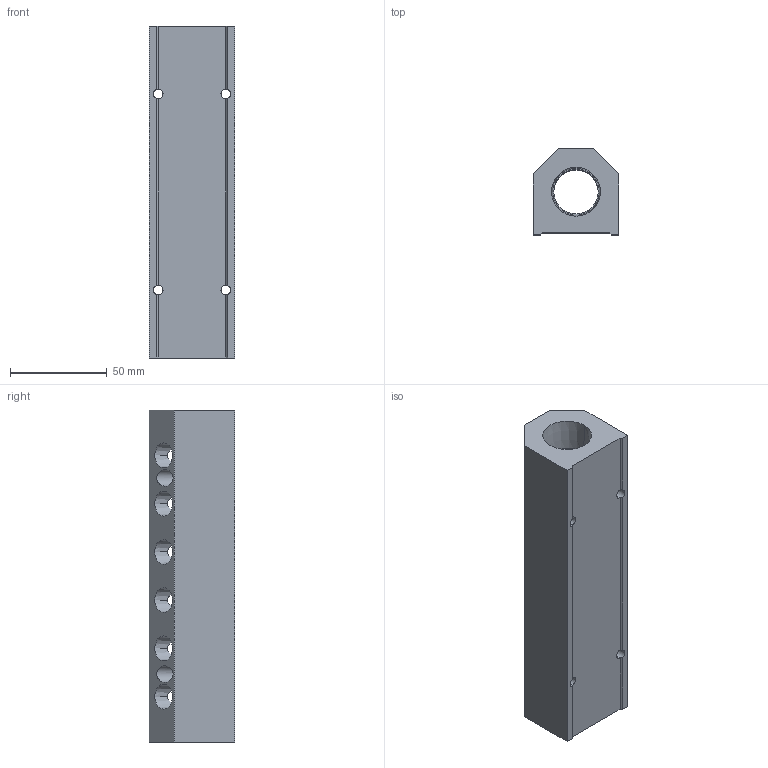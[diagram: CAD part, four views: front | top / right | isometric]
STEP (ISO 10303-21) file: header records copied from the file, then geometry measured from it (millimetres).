
FILE_DESCRIPTION (( 'STEP AP214' ), '1' );
FILE_NAME ('ALM6BCD-N4N12-172R.step', '2022-02-06T14:06:11', ( '' ), ( '' ), 'SwSTEP 2.0', 'SolidWorks 2020', '' );
FILE_SCHEMA (( 'AUTOMOTIVE_DESIGN' ));
Length unit declared in the file: millimetre
Products named in the file (1): ALM6BCD-N4N12-172R
Bounding box: 44.5 x 44.5 x 172 mm (x, y, z)
Volume: 203093.7 mm3; surface area: 49135.7 mm2
Topology: 1 solids, 1 shells, 344 faces, 953 edges, 630 vertices
Faces by surface type: plane 215, bspline 53, cone 50, cylinder 26
Entity records: 19011 total; most frequent: CARTESIAN_POINT 7545, ORIENTED_EDGE 1906, DIRECTION 1411, EDGE_CURVE 953, LINE 643, VECTOR 643, VERTEX_POINT 630, EDGE_LOOP 409
